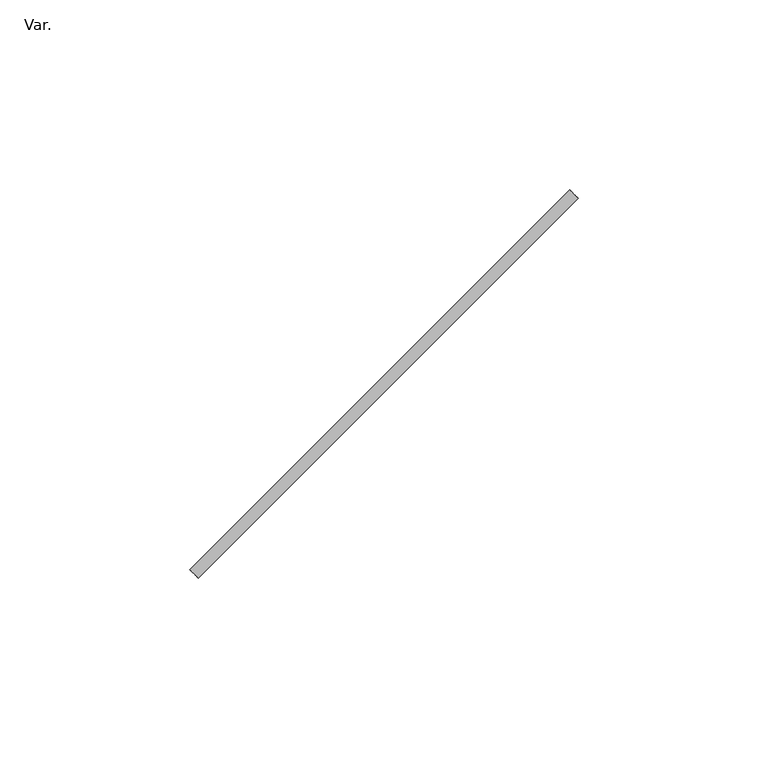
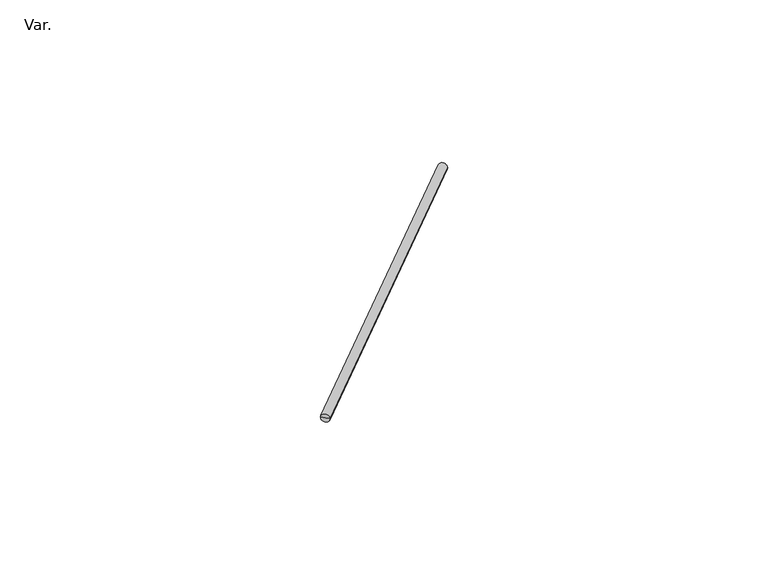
"""IFC4 building model written with IfcOpenShell, lengths in millimetres: pipe fitting geometry, PAVCO_PVC QS Guaya Metálica : Var.."""

from ifc_helpers import new_model, si_unit, frame, origin, place, context, project, spatial, circle_curve, source, transform, mapped, element, save
from ifc_brep_helpers import plane_surface, cylinder_surface, advanced_brep


def var_1bc663ec(model_context):
    return source(origin(), model_context, "Body", "AdvancedBrep", [
        advanced_brep(
        [(101.1172287, 98.8827713, 0.0), (98.8827713, 101.1172287, 0.0), (100.0, 100.0, 0.0), (1.1172287, -1.1172287, 0.0), (-1.1172287, 1.1172287, 0.0), (0.0, 0.0, 0.0)],
        [
            (0, 1, circle_curve(frame((100.0, 100.0, 0.0), z_axis=(0.7071067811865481, 0.7071067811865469, 0.0), x_axis=(-0.707106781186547, 0.7071067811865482, 0.0)), 1.58)),
            (1, 2),
            (2, 0),
            (1, 0, circle_curve(frame((100.0, 100.0, 0.0), z_axis=(0.7071067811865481, 0.7071067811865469, 0.0), x_axis=(-0.707106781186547, 0.7071067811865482, 0.0)), 1.58)),
            (3, 4, circle_curve(frame((0.0, 0.0, 0.0), z_axis=(0.7071067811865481, 0.7071067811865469, 0.0), x_axis=(-0.707106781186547, 0.7071067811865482, 0.0)), 1.58)),
            (4, 1),
            (0, 3),
            (4, 3, circle_curve(frame((0.0, 0.0, 0.0), z_axis=(0.7071067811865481, 0.7071067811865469, 0.0), x_axis=(-0.707106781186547, 0.7071067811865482, 0.0)), 1.58)),
            (5, 4),
            (3, 5),
        ],
        [
            plane_surface(frame((100.0, 100.0, 0.0), z_axis=(0.7071067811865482, 0.707106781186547, 0.0), x_axis=(-0.707106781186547, 0.7071067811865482, 0.0))),
            cylinder_surface(frame((0.0, 0.0, 0.0), z_axis=(-0.7071067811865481, -0.7071067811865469, 0.0), x_axis=(-0.707106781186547, 0.7071067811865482, 0.0)), 1.58),
            plane_surface(frame((0.0, 0.0, 0.0), z_axis=(-0.7071067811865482, -0.707106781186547, 0.0), x_axis=(-0.707106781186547, 0.7071067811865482, 0.0))),
        ],
        [
            (0, [[1, 2, 3]]),
            (0, [[4, -3, -2]]),
            (1, [[5, 6, -1, 7]]),
            (1, [[8, -7, -4, -6]]),
            (2, [[9, -5, 10]]),
            (2, [[-10, -8, -9]]),
        ],
    ),
    ])


if __name__ == "__main__":
    model = new_model("IFC4")
    model_context = context("Model", 3, world=origin())
    ifc_project = project(units=[si_unit("LENGTHUNIT", "METRE", prefix="MILLI")], contexts=[model_context])
    site = spatial("IfcSite", under=ifc_project)
    building = spatial("IfcBuilding", under=site)
    placement = place(None, origin())
    var_shape = var_1bc663ec(model_context)
    element("IfcPipeFitting", 1, ObjectType="PAVCO_PVC QS Guaya Metálica : Var.", at=placement, inside=building, context=model_context, shape_type="MappedRepresentation", body=[
        mapped(var_shape, transform((0.0, 0.0, 0.0), x_axis=(1.0, 0.0, 0.0), y_axis=(0.0, 1.0, 0.0), z_axis=(0.0, 0.0, 1.0))),
    ])
    save(model, "model.ifc")
